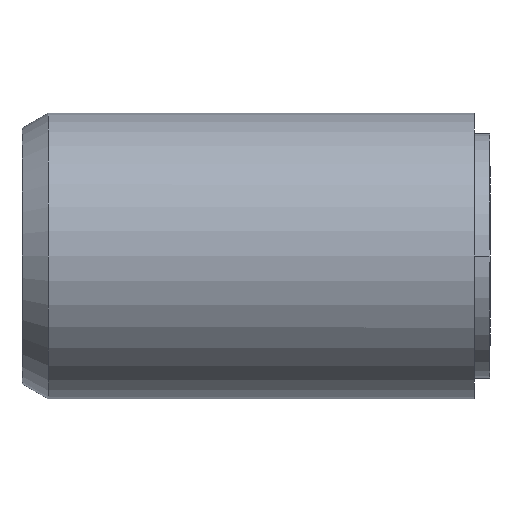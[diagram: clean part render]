
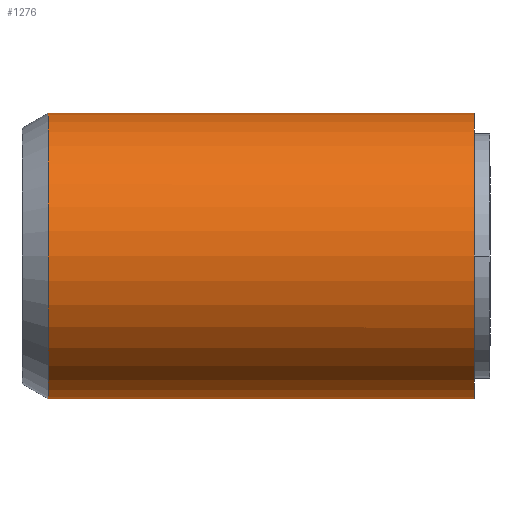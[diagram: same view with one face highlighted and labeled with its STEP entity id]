
A CAD part, front view. The second image highlights one B-rep face of the part: STEP entity #1276.
In plain terms, the highlighted cylindrical face has radius 27.5 mm (diameter 55 mm), a partial arc.
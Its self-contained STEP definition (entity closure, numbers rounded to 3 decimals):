
#2 = LINE ( 'NONE', #1227, #3904 ) ;
#71 = ORIENTED_EDGE ( 'NONE', *, *, #1708, .T. ) ;
#366 = DIRECTION ( 'NONE',  ( 0., 0., 1. ) ) ;
#705 = VECTOR ( 'NONE', #1761, 1000. ) ;
#715 = EDGE_CURVE ( 'NONE', #3484, #1954, #820, .T. ) ;
#820 = CIRCLE ( 'NONE', #2362, 27.5 ) ;
#821 = EDGE_LOOP ( 'NONE', ( #3963, #2876, #71, #3507 ) ) ;
#1038 = CYLINDRICAL_SURFACE ( 'NONE', #2225, 27.5 ) ;
#1183 = CARTESIAN_POINT ( 'NONE',  ( 5., 0., 0. ) ) ;
#1227 = CARTESIAN_POINT ( 'NONE',  ( 0., 0., 27.5 ) ) ;
#1276 = ADVANCED_FACE ( 'NONE', ( #2526 ), #1038, .T. ) ;
#1347 = DIRECTION ( 'NONE',  ( -1., 0., 0. ) ) ;
#1580 = DIRECTION ( 'NONE',  ( -1., 0., 0. ) ) ;
#1708 = EDGE_CURVE ( 'NONE', #3303, #3484, #2, .T. ) ;
#1761 = DIRECTION ( 'NONE',  ( -1., 0., 0. ) ) ;
#1887 = CARTESIAN_POINT ( 'NONE',  ( 87., 0., 0. ) ) ;
#1902 = DIRECTION ( 'NONE',  ( 0., 0., 1. ) ) ;
#1954 = VERTEX_POINT ( 'NONE', #3264 ) ;
#2054 = DIRECTION ( 'NONE',  ( 0., 0., -1. ) ) ;
#2145 = LINE ( 'NONE', #3386, #705 ) ;
#2225 = AXIS2_PLACEMENT_3D ( 'NONE', #3502, #1580, #1902 ) ;
#2229 = CIRCLE ( 'NONE', #3079, 27.5 ) ;
#2362 = AXIS2_PLACEMENT_3D ( 'NONE', #1183, #3596, #2054 ) ;
#2526 = FACE_OUTER_BOUND ( 'NONE', #821, .T. ) ;
#2613 = VERTEX_POINT ( 'NONE', #3451 ) ;
#2641 = CARTESIAN_POINT ( 'NONE',  ( 87., 0., 27.5 ) ) ;
#2757 = CARTESIAN_POINT ( 'NONE',  ( 5., 0., 27.5 ) ) ;
#2876 = ORIENTED_EDGE ( 'NONE', *, *, #3101, .T. ) ;
#2977 = EDGE_CURVE ( 'NONE', #2613, #1954, #2145, .T. ) ;
#3079 = AXIS2_PLACEMENT_3D ( 'NONE', #1887, #1347, #366 ) ;
#3101 = EDGE_CURVE ( 'NONE', #2613, #3303, #2229, .T. ) ;
#3264 = CARTESIAN_POINT ( 'NONE',  ( 5., 0., -27.5 ) ) ;
#3303 = VERTEX_POINT ( 'NONE', #2641 ) ;
#3386 = CARTESIAN_POINT ( 'NONE',  ( 0., 0., -27.5 ) ) ;
#3451 = CARTESIAN_POINT ( 'NONE',  ( 87., 0., -27.5 ) ) ;
#3484 = VERTEX_POINT ( 'NONE', #2757 ) ;
#3502 = CARTESIAN_POINT ( 'NONE',  ( 0., 0., 0. ) ) ;
#3507 = ORIENTED_EDGE ( 'NONE', *, *, #715, .T. ) ;
#3596 = DIRECTION ( 'NONE',  ( 1., 0., 0. ) ) ;
#3904 = VECTOR ( 'NONE', #3954, 1000. ) ;
#3954 = DIRECTION ( 'NONE',  ( -1., 0., 0. ) ) ;
#3963 = ORIENTED_EDGE ( 'NONE', *, *, #2977, .F. ) ;
